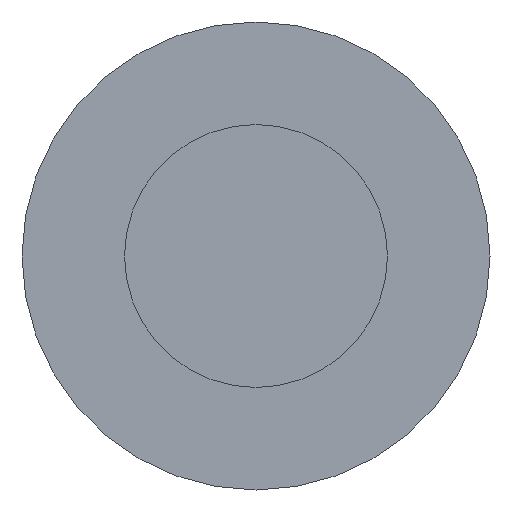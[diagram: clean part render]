
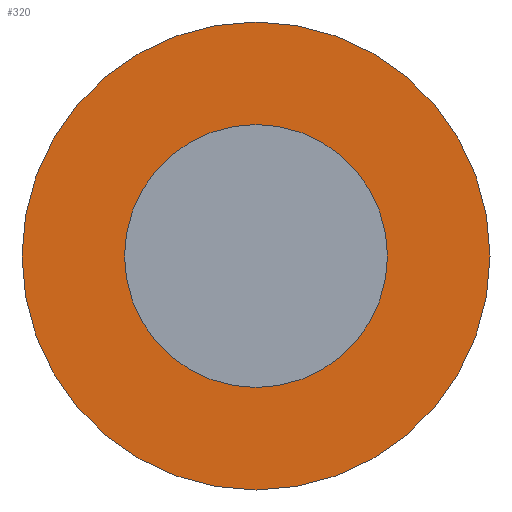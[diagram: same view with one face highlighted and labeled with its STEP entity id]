
A CAD part, front view. The second image highlights one B-rep face of the part: STEP entity #320.
In plain terms, the highlighted planar face has unit normal (0, -1, 0).
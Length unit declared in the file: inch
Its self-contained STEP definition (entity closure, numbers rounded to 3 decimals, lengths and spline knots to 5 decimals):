
#3 = ORIENTED_EDGE ( 'NONE', *, *, #133, .T. ) ;
#10 = CARTESIAN_POINT ( 'NONE',  ( 0., -0.25084, -0.125 ) ) ;
#17 = DIRECTION ( 'NONE',  ( 0., 0., -1. ) ) ;
#22 = ORIENTED_EDGE ( 'NONE', *, *, #242, .F. ) ;
#23 = DIRECTION ( 'NONE',  ( 0., 0., -1. ) ) ;
#27 = FACE_OUTER_BOUND ( 'NONE', #166, .T. ) ;
#28 = VERTEX_POINT ( 'NONE', #10 ) ;
#30 = DIRECTION ( 'NONE',  ( 0., -1., 0. ) ) ;
#46 = CARTESIAN_POINT ( 'NONE',  ( 0., -0.25084, 0. ) ) ;
#58 = DIRECTION ( 'NONE',  ( 0., -1., 0. ) ) ;
#62 = CIRCLE ( 'NONE', #89, 0.125 ) ;
#73 = VERTEX_POINT ( 'NONE', #327 ) ;
#80 = CARTESIAN_POINT ( 'NONE',  ( 0., -0.25084, 0. ) ) ;
#89 = AXIS2_PLACEMENT_3D ( 'NONE', #80, #252, #222 ) ;
#93 = CIRCLE ( 'NONE', #249, 0.125 ) ;
#96 = CARTESIAN_POINT ( 'NONE',  ( 0., -0.25084, 0.2225 ) ) ;
#98 = CARTESIAN_POINT ( 'NONE',  ( 0., -0.25084, 0. ) ) ;
#105 = VERTEX_POINT ( 'NONE', #96 ) ;
#133 = EDGE_CURVE ( 'NONE', #105, #281, #325, .T. ) ;
#137 = AXIS2_PLACEMENT_3D ( 'NONE', #143, #30, #250 ) ;
#141 = PLANE ( 'NONE',  #137 ) ;
#143 = CARTESIAN_POINT ( 'NONE',  ( 0., -0.25084, -0.125 ) ) ;
#154 = CIRCLE ( 'NONE', #280, 0.2225 ) ;
#155 = DIRECTION ( 'NONE',  ( 0., -1., 0. ) ) ;
#162 = CARTESIAN_POINT ( 'NONE',  ( 0., -0.25084, 0. ) ) ;
#166 = EDGE_LOOP ( 'NONE', ( #343, #3 ) ) ;
#179 = AXIS2_PLACEMENT_3D ( 'NONE', #98, #217, #240 ) ;
#199 = EDGE_LOOP ( 'NONE', ( #342, #22 ) ) ;
#217 = DIRECTION ( 'NONE',  ( 0., -1., 0. ) ) ;
#222 = DIRECTION ( 'NONE',  ( 0., 0., -1. ) ) ;
#240 = DIRECTION ( 'NONE',  ( 0., 0., -1. ) ) ;
#242 = EDGE_CURVE ( 'NONE', #73, #28, #93, .T. ) ;
#247 = FACE_BOUND ( 'NONE', #199, .T. ) ;
#249 = AXIS2_PLACEMENT_3D ( 'NONE', #46, #155, #17 ) ;
#250 = DIRECTION ( 'NONE',  ( 0., 0., -1. ) ) ;
#252 = DIRECTION ( 'NONE',  ( 0., -1., 0. ) ) ;
#280 = AXIS2_PLACEMENT_3D ( 'NONE', #162, #58, #23 ) ;
#281 = VERTEX_POINT ( 'NONE', #307 ) ;
#307 = CARTESIAN_POINT ( 'NONE',  ( 0., -0.25084, -0.2225 ) ) ;
#320 = ADVANCED_FACE ( 'NONE', ( #27, #247 ), #141, .T. ) ;
#325 = CIRCLE ( 'NONE', #179, 0.2225 ) ;
#327 = CARTESIAN_POINT ( 'NONE',  ( 0., -0.25084, 0.125 ) ) ;
#336 = EDGE_CURVE ( 'NONE', #28, #73, #62, .T. ) ;
#342 = ORIENTED_EDGE ( 'NONE', *, *, #336, .F. ) ;
#343 = ORIENTED_EDGE ( 'NONE', *, *, #354, .T. ) ;
#354 = EDGE_CURVE ( 'NONE', #281, #105, #154, .T. ) ;
